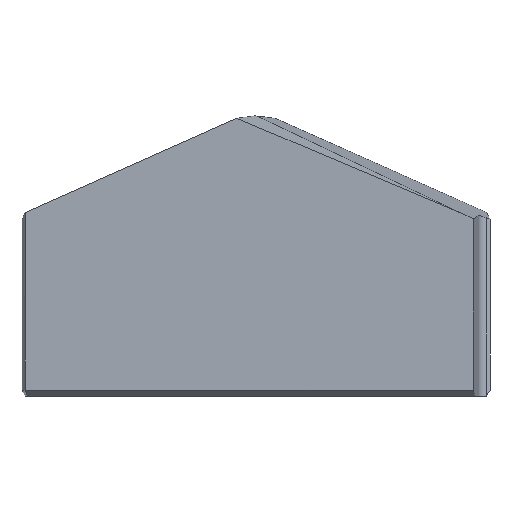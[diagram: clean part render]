
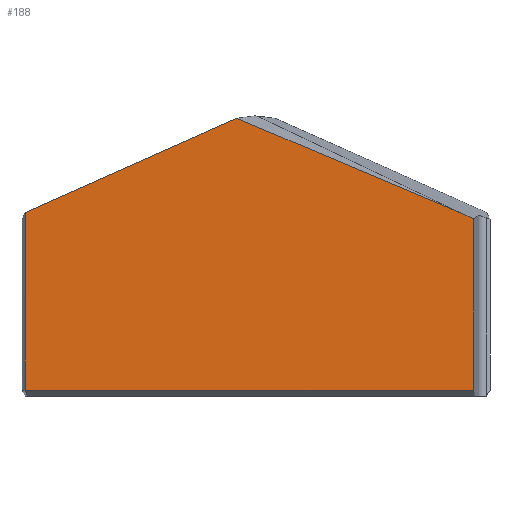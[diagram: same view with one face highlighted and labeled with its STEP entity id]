
A CAD part, top view. The second image highlights one B-rep face of the part: STEP entity #188.
In plain terms, the highlighted planar face has unit normal (0, 0, 1).
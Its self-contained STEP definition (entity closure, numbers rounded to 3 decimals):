
#4 = ORIENTED_EDGE ( 'NONE', *, *, #418, .T. ) ;
#7 = DIRECTION ( 'NONE',  ( 1., 0., 0. ) ) ;
#16 = DIRECTION ( 'NONE',  ( 0., 1., 0. ) ) ;
#31 = EDGE_LOOP ( 'NONE', ( #4, #328, #513, #419, #542, #201, #307 ) ) ;
#41 = CARTESIAN_POINT ( 'NONE',  ( 5.181, 11.638, 4. ) ) ;
#57 = VECTOR ( 'NONE', #599, 1000. ) ;
#65 = VERTEX_POINT ( 'NONE', #446 ) ;
#78 = VECTOR ( 'NONE', #625, 1000. ) ;
#79 = AXIS2_PLACEMENT_3D ( 'NONE', #609, #309, #318 ) ;
#88 = VERTEX_POINT ( 'NONE', #277 ) ;
#102 = CARTESIAN_POINT ( 'NONE',  ( -11.734, 0.296, 4. ) ) ;
#149 = CARTESIAN_POINT ( 'NONE',  ( 11.055, 0., 4. ) ) ;
#155 = VERTEX_POINT ( 'NONE', #604 ) ;
#188 = ADVANCED_FACE ( 'NONE', ( #534 ), #558, .T. ) ;
#193 = CARTESIAN_POINT ( 'NONE',  ( 10.349, 9.337, 4. ) ) ;
#201 = ORIENTED_EDGE ( 'NONE', *, *, #342, .T. ) ;
#208 = CARTESIAN_POINT ( 'NONE',  ( -11.729, 0.289, 4. ) ) ;
#209 = CARTESIAN_POINT ( 'NONE',  ( -0.974, 14.126, 4. ) ) ;
#264 = VECTOR ( 'NONE', #535, 1000. ) ;
#277 = CARTESIAN_POINT ( 'NONE',  ( -11.736, 0.3, 4. ) ) ;
#305 = CARTESIAN_POINT ( 'NONE',  ( -11.736, 0., 4. ) ) ;
#307 = ORIENTED_EDGE ( 'NONE', *, *, #613, .T. ) ;
#308 = CARTESIAN_POINT ( 'NONE',  ( 0., 14.56, 4. ) ) ;
#309 = DIRECTION ( 'NONE',  ( 0., 0., 1. ) ) ;
#311 = VERTEX_POINT ( 'NONE', #408 ) ;
#318 = DIRECTION ( 'NONE',  ( 1., 0., 0. ) ) ;
#323 = EDGE_CURVE ( 'NONE', #88, #65, #630, .T. ) ;
#328 = ORIENTED_EDGE ( 'NONE', *, *, #382, .T. ) ;
#339 = LINE ( 'NONE', #41, #78 ) ;
#342 = EDGE_CURVE ( 'NONE', #624, #155, #608, .T. ) ;
#352 = VECTOR ( 'NONE', #7, 1000. ) ;
#374 = VERTEX_POINT ( 'NONE', #209 ) ;
#382 = EDGE_CURVE ( 'NONE', #425, #374, #440, .T. ) ;
#394 = EDGE_CURVE ( 'NONE', #88, #624, #470, .T. ) ;
#404 = CARTESIAN_POINT ( 'NONE',  ( -11.731, 0.292, 4. ) ) ;
#408 = CARTESIAN_POINT ( 'NONE',  ( 11.055, 9.023, 4. ) ) ;
#418 = EDGE_CURVE ( 'NONE', #311, #425, #339, .T. ) ;
#419 = ORIENTED_EDGE ( 'NONE', *, *, #323, .F. ) ;
#425 = VERTEX_POINT ( 'NONE', #193 ) ;
#440 = LINE ( 'NONE', #451, #57 ) ;
#445 = DIRECTION ( 'NONE',  ( -0.914, -0.407, 0. ) ) ;
#446 = CARTESIAN_POINT ( 'NONE',  ( -11.736, 9.335, 4. ) ) ;
#451 = CARTESIAN_POINT ( 'NONE',  ( 4.921, 11.633, 4. ) ) ;
#453 = VECTOR ( 'NONE', #445, 1000. ) ;
#470 = B_SPLINE_CURVE_WITH_KNOTS ( 'NONE', 3,
 ( #638, #102, #404, #491 ),
 .UNSPECIFIED., .F., .F.,
 ( 4, 4 ),
 ( 0., 0. ),
 .UNSPECIFIED. ) ;
#476 = LINE ( 'NONE', #308, #453 ) ;
#491 = CARTESIAN_POINT ( 'NONE',  ( -11.729, 0.289, 4. ) ) ;
#506 = CARTESIAN_POINT ( 'NONE',  ( 11.56, 0.289, 4. ) ) ;
#513 = ORIENTED_EDGE ( 'NONE', *, *, #537, .T. ) ;
#534 = FACE_OUTER_BOUND ( 'NONE', #31, .T. ) ;
#535 = DIRECTION ( 'NONE',  ( 0., 1., 0. ) ) ;
#537 = EDGE_CURVE ( 'NONE', #374, #65, #476, .T. ) ;
#542 = ORIENTED_EDGE ( 'NONE', *, *, #394, .T. ) ;
#544 = LINE ( 'NONE', #149, #264 ) ;
#558 = PLANE ( 'NONE',  #79 ) ;
#599 = DIRECTION ( 'NONE',  ( -0.921, 0.39, 0. ) ) ;
#604 = CARTESIAN_POINT ( 'NONE',  ( 11.055, 0.289, 4. ) ) ;
#608 = LINE ( 'NONE', #506, #352 ) ;
#609 = CARTESIAN_POINT ( 'NONE',  ( 0., 0., 4. ) ) ;
#613 = EDGE_CURVE ( 'NONE', #155, #311, #544, .T. ) ;
#618 = VECTOR ( 'NONE', #16, 1000. ) ;
#624 = VERTEX_POINT ( 'NONE', #208 ) ;
#625 = DIRECTION ( 'NONE',  ( -0.914, 0.407, 0. ) ) ;
#630 = LINE ( 'NONE', #305, #618 ) ;
#638 = CARTESIAN_POINT ( 'NONE',  ( -11.736, 0.3, 4. ) ) ;
